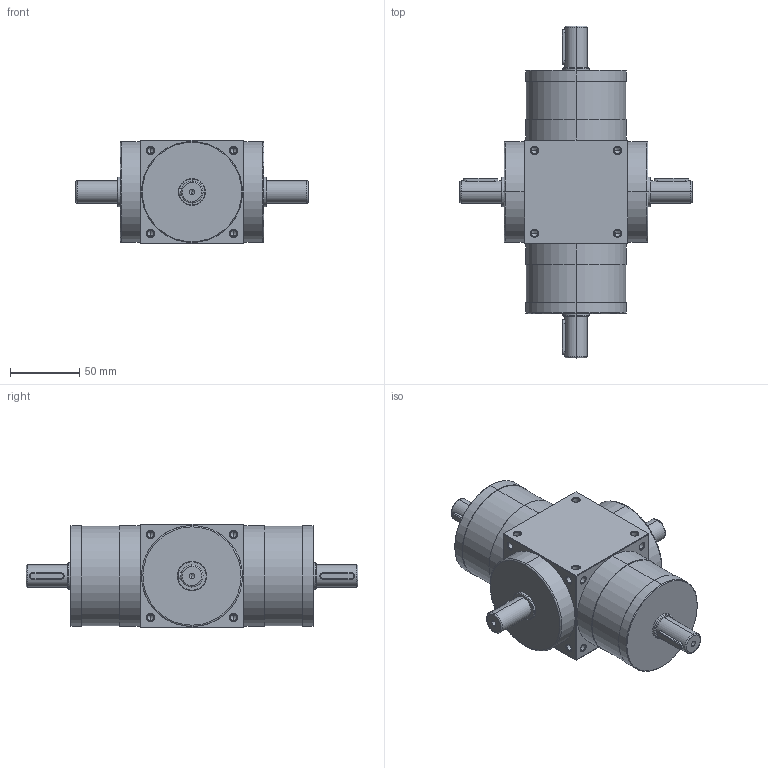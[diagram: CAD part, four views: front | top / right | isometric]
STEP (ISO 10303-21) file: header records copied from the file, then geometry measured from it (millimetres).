
FILE_DESCRIPTION (( 'STEP AP214' ), '1' );
FILE_NAME ('AT075-L-001.STEP', '2020-10-09T01:27:25', ( '微软用户' ), ( '微软中国' ), 'SwSTEP 2.0', 'SolidWorks 2014', '' );
FILE_SCHEMA (( 'AUTOMOTIVE_DESIGN' ));
Length unit declared in the file: millimetre
Products named in the file (2): AT075-L-001
Bounding box: 168 x 240 x 75 mm (x, y, z)
Volume: 980327.3 mm3; surface area: 82998.4 mm2
Topology: 2 solids, 2 shells, 343 faces, 862 edges, 482 vertices
Faces by surface type: cylinder 144, cone 124, plane 63, bspline 12
Entity records: 13536 total; most frequent: CARTESIAN_POINT 2577, ORIENTED_EDGE 1612, DIRECTION 1562, EDGE_CURVE 806, AXIS2_PLACEMENT_3D 603, VERTEX_POINT 482, EDGE_LOOP 390, LINE 356
